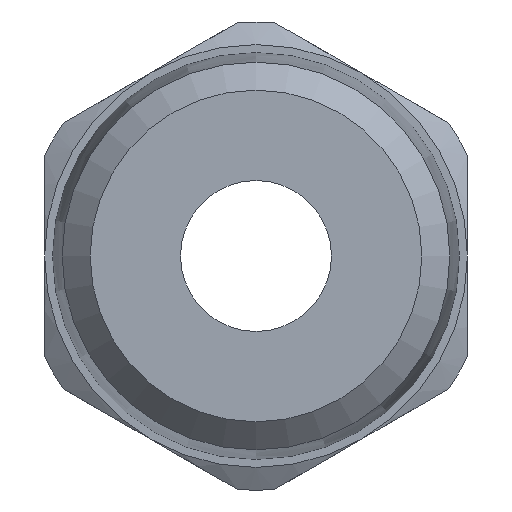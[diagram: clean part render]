
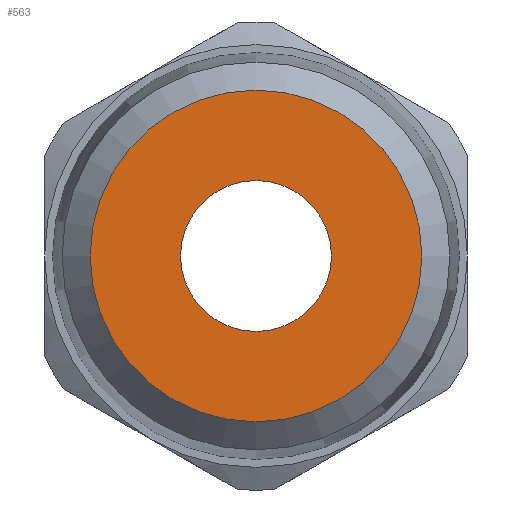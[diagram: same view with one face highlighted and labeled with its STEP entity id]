
A CAD part, left-side view. The second image highlights one B-rep face of the part: STEP entity #563.
In plain terms, the highlighted planar face has unit normal (-1, 0, 0).
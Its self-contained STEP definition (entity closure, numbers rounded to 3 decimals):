
#79=PLANE($,#616);
#98=FACE_BOUND($,#164,.T.);
#99=FACE_BOUND($,#165,.T.);
#164=EDGE_LOOP($,(#400));
#165=EDGE_LOOP($,(#401));
#216=CIRCLE($,#605,2.5);
#220=CIRCLE($,#612,5.491);
#258=VERTEX_POINT($,#875);
#262=VERTEX_POINT($,#886);
#312=EDGE_CURVE($,#258,#258,#216,.T.);
#316=EDGE_CURVE($,#262,#262,#220,.T.);
#400=ORIENTED_EDGE($,*,*,#312,.T.);
#401=ORIENTED_EDGE($,*,*,#316,.F.);
#563=ADVANCED_FACE($,(#98,#99),#79,.F.);
#605=AXIS2_PLACEMENT_3D($,#876,#693,#694);
#612=AXIS2_PLACEMENT_3D($,#887,#707,#708);
#616=AXIS2_PLACEMENT_3D($,#893,#715,#716);
#693=DIRECTION('center_axis',(1.,0.,0.));
#694=DIRECTION('ref_axis',(0.,-1.,0.));
#707=DIRECTION('center_axis',(1.,0.,0.));
#708=DIRECTION('ref_axis',(0.,0.,
-1.));
#715=DIRECTION('center_axis',(1.,0.,0.));
#716=DIRECTION('ref_axis',(0.,0.,-1.));
#875=CARTESIAN_POINT('',(-19.,-2.5,0.));
#876=CARTESIAN_POINT('Origin',(-19.,0.,0.));
#886=CARTESIAN_POINT('',(-19.,0.,5.491));
#887=CARTESIAN_POINT('Origin',(-19.,0.,0.));
#893=CARTESIAN_POINT('Origin',(-19.,0.,0.));
